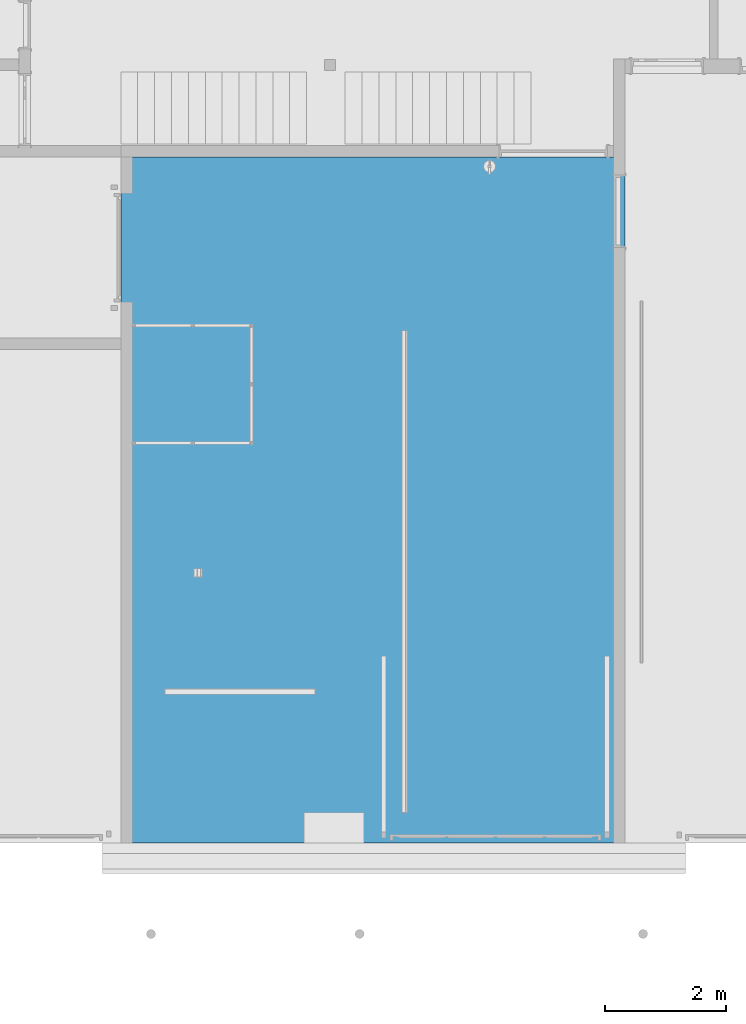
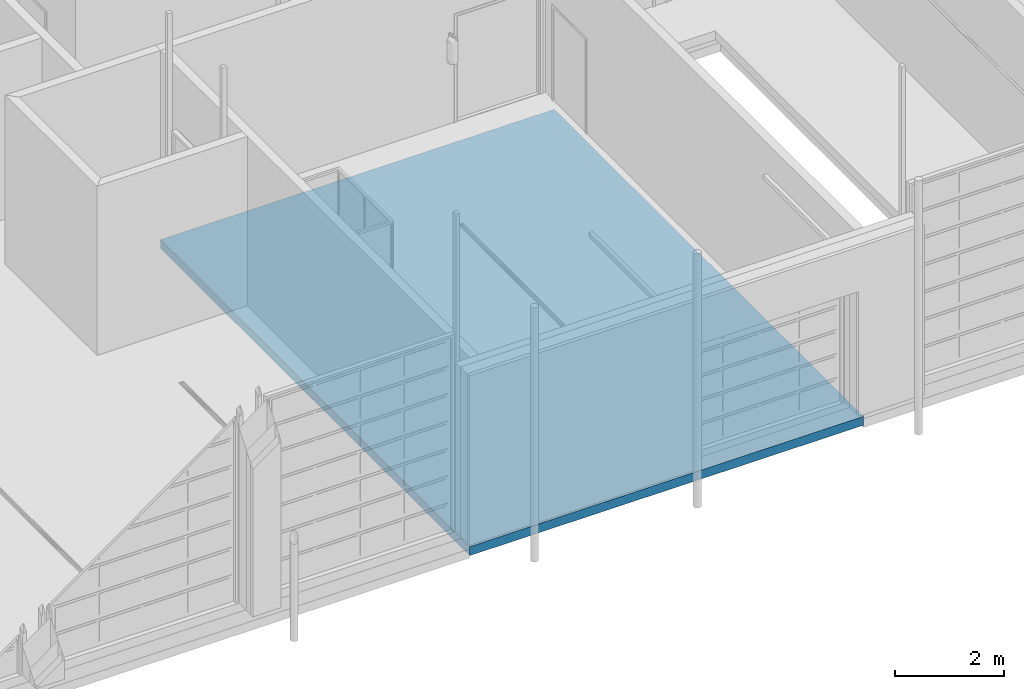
# One storey, part 51 of 112: 1 building element part, 1 element without a shape of its own.
"""IFC2X3 building model written with IfcOpenShell, lengths in millimetres."""

import ifcopenshell
import ifcopenshell.guid

model = None  # the IFC model being written
_history = None  # IfcOwnerHistory: only IFC2X3 demands one
_inside = {}  # id of a spatial element -> (the spatial element, [elements in it])
_under = {}  # id of a project, library or spatial element -> (it, [spatial elements below it])
_declared = {}  # id of a project -> (the project, [libraries it declares])
_typed = {}  # id of a type object -> (the type object, [elements of that type])
_made_of = {}  # id of a material, layer set ... -> (it, [elements and type objects made of it])


def new_model(schema):
    """Start an empty IFC model of exactly this schema.

    Asked for "IFC4X3", IfcOpenShell would pick the latest addendum, in which some entities
    have other attributes; the version numbers below select the first issue.
    IFC2X3 requires an IfcOwnerHistory on every rooted entity: one is made here for all.
    """
    global model, _history
    if schema == "IFC4X3":
        model = ifcopenshell.file(schema_version=(4, 3, 0, 0))
    else:
        model = ifcopenshell.file(schema=schema)
    _inside.clear()
    _under.clear()
    _declared.clear()
    _typed.clear()
    _made_of.clear()
    _history = None
    if model.schema == "IFC2X3":
        org = make("IfcOrganization", Name="unknown")
        user = make(
            "IfcPersonAndOrganization",
            ThePerson=make("IfcPerson", FamilyName="unknown"),
            TheOrganization=org,
        )
        app = make(
            "IfcApplication",
            ApplicationDeveloper=org,
            Version="unknown",
            ApplicationFullName="unknown",
            ApplicationIdentifier="unknown",
        )
        _history = make(
            "IfcOwnerHistory",
            OwningUser=user,
            OwningApplication=app,
            ChangeAction="ADDED",
            CreationDate=0,
        )
    return model


def make(cls, **values):
    """One entity of the class cls with the attributes given. An attribute that is None is left unset."""
    return model.create_entity(
        cls, **{name: value for name, value in values.items() if value is not None}
    )


def entity(cls, *values):
    """Any entity or typed value of the class cls, its attributes in the order of the schema. None: left unset."""
    e = model.create_entity(cls)
    for i, value in enumerate(values):
        if value is not None:
            e[i] = value
    return e


def rooted(cls, **values):
    """An entity with a GlobalId (a new one), such as an element, a storey or a relation."""
    return make(cls, GlobalId=ifcopenshell.guid.new(), OwnerHistory=_history, **values)


def si_unit(unit_type, name, prefix=None):
    """IfcSIUnit, for example si_unit("LENGTHUNIT", "METRE", prefix="MILLI")."""
    return make("IfcSIUnit", UnitType=unit_type, Prefix=prefix, Name=name)


def converted_unit(unit_type, name, factor, base, dimensions=None, offset=None):
    """IfcConversionBasedUnit, such as the inch: factor (a typed value) times the base unit."""
    return make(
        "IfcConversionBasedUnit"
        if offset is None
        else "IfcConversionBasedUnitWithOffset",
        ConversionOffset=offset,
        Dimensions=None
        if dimensions is None
        else entity("IfcDimensionalExponents", *dimensions),
        UnitType=unit_type,
        Name=name,
        ConversionFactor=make(
            "IfcMeasureWithUnit", ValueComponent=factor, UnitComponent=base
        ),
    )


def derived_unit(unit_type, elements):
    """IfcDerivedUnit: a product of units, each with its exponent."""
    return make(
        "IfcDerivedUnit",
        Elements=[
            make("IfcDerivedUnitElement", Unit=unit, Exponent=power)
            for unit, power in elements
        ],
        UnitType=unit_type,
    )


def money_unit(currency):
    """IfcMonetaryUnit."""
    return make("IfcMonetaryUnit", Currency=currency)


def assignment(units):
    """IfcUnitAssignment: the units of a project."""
    return None if units is None else make("IfcUnitAssignment", Units=units)


def point(xyz):
    """IfcCartesianPoint."""
    return None if xyz is None else make("IfcCartesianPoint", Coordinates=xyz)


def direction(xyz):
    """IfcDirection."""
    return None if xyz is None else make("IfcDirection", DirectionRatios=xyz)


def frame(location, z_axis=None, x_axis=None):
    """IfcAxis2Placement3D, a coordinate frame: its origin and axes. An axis left out is left unset."""
    return make(
        "IfcAxis2Placement3D",
        Location=point(location),
        Axis=direction(z_axis),
        RefDirection=direction(x_axis),
    )


def origin_with_axes():
    """The frame at (0, 0, 0) with the z axis (0, 0, 1) and the x axis (1, 0, 0) written out."""
    return frame((0.0, 0.0, 0.0), z_axis=(0.0, 0.0, 1.0), x_axis=(1.0, 0.0, 0.0))


def place(relative_to, where):
    """IfcLocalPlacement: puts the frame where relative to a parent placement (None: the world)."""
    return make(
        "IfcLocalPlacement", PlacementRelTo=relative_to, RelativePlacement=where
    )


def context(
    kind, dimensions, precision=None, world=None, true_north=None, identifier=None
):
    """IfcGeometricRepresentationContext, for example the 3D "Model" context."""
    return make(
        "IfcGeometricRepresentationContext",
        ContextIdentifier=identifier,
        ContextType=kind,
        CoordinateSpaceDimension=dimensions,
        Precision=precision,
        WorldCoordinateSystem=world,
        TrueNorth=true_north,
    )


def subcontext(parent, identifier, kind, view, scale=None):
    """IfcGeometricRepresentationSubContext, for example "Body" below "Model"."""
    return make(
        "IfcGeometricRepresentationSubContext",
        ContextIdentifier=identifier,
        ContextType=kind,
        ParentContext=parent,
        TargetScale=scale,
        TargetView=view,
    )


def project(units=None, contexts=None):
    """IfcProject with its units and contexts."""
    return rooted(
        "IfcProject",
        Name="project",
        RepresentationContexts=contexts,
        UnitsInContext=assignment(units),
    )


def spatial(cls, under=None, at=None, **own):
    """A site, building, storey or space (cls), placed at a placement, below another one or the project."""
    s = rooted(cls, ObjectPlacement=at, **own)
    if under is not None:
        _under.setdefault(under.id(), (under, []))[1].append(s)
    return s


def polyline(points):
    """IfcPolyline through the points."""
    return make("IfcPolyline", Points=[point(p) for p in points])


def outline(outer, holes=None, kind="AREA"):
    """IfcArbitraryClosedProfileDef: a profile drawn as a closed curve; with holes, ...WithVoids."""
    if holes is None:
        return make("IfcArbitraryClosedProfileDef", ProfileType=kind, OuterCurve=outer)
    return make(
        "IfcArbitraryProfileDefWithVoids",
        ProfileType=kind,
        OuterCurve=outer,
        InnerCurves=holes,
    )


def extrude(swept, where, along, depth):
    """IfcExtrudedAreaSolid: the profile swept, set in the frame where, extruded along a direction by depth."""
    return make(
        "IfcExtrudedAreaSolid",
        SweptArea=swept,
        Position=where,
        ExtrudedDirection=direction(along),
        Depth=depth,
    )


def boolean(op, a, b):
    """IfcBooleanResult of two solids."""
    return make("IfcBooleanResult", Operator=op, FirstOperand=a, SecondOperand=b)


def faces_of(points, faces, orient=None, outer=None):
    """IfcFace entities. A face is a list of loops; a loop is a list of indices into points, from 0.

    orient and outer hold one flag for each loop. By default every Orientation is true, the
    first loop of a face is its IfcFaceOuterBound and the others are IfcFaceBound.
    """
    made = []
    for i, loops in enumerate(faces):
        bounds = []
        for j, loop in enumerate(loops):
            is_outer = j == 0 if outer is None else outer[i][j]
            bounds.append(
                make(
                    "IfcFaceOuterBound" if is_outer else "IfcFaceBound",
                    Bound=make("IfcPolyLoop", Polygon=[points[k] for k in loop]),
                    Orientation=True if orient is None else orient[i][j],
                )
            )
        made.append(make("IfcFace", Bounds=bounds))
    return made


def faceted_brep(points, faces, orient=None, outer=None, voids=None):
    """IfcFacetedBrep: a solid bounded by flat faces; with voids (closed shells), ...WithVoids."""
    shared = [point(p) for p in points]
    hull = make("IfcClosedShell", CfsFaces=faces_of(shared, faces, orient, outer))
    if voids is None:
        return make("IfcFacetedBrep", Outer=hull)
    return make(
        "IfcFacetedBrepWithVoids",
        Outer=hull,
        Voids=[
            make(cls, CfsFaces=faces_of(shared, fs, o, b)) for cls, fs, o, b in voids
        ],
    )


def shape(context_of_items, identifier, shape_type, items):
    """IfcShapeRepresentation: the items that make up one representation, for example the "Body"."""
    return make(
        "IfcShapeRepresentation",
        ContextOfItems=context_of_items,
        RepresentationIdentifier=identifier,
        RepresentationType=shape_type,
        Items=items,
    )


def material(Name=None, Category=None):
    """IfcMaterial."""
    return make("IfcMaterial", Name=Name, Category=Category)


def made_of(thing, what):
    """Note that an element or type object is made of a material, layer set ...; save() writes the relation."""
    if what is not None:
        _made_of.setdefault(what.id(), (what, []))[1].append(thing)
    return thing


def type_object(cls, material=None, **own):
    """A type object (cls), such as IfcWallType, which elements share."""
    return made_of(rooted(cls, **own), material)


def element(
    cls,
    number,
    at=None,
    inside=None,
    cuts=None,
    type_object=None,
    material=None,
    context=None,
    identifier="Body",
    shape_type=None,
    held_by="IfcProductDefinitionShape",
    body=None,
    shapes=None,
    **own,
):
    """One element of the class cls, such as IfcWall. Its Tag is "e" and its number.

    at: its placement. inside: the storey or other place that contains it. cuts: it is an
    opening in that element (IfcRelVoidsElement). A single representation is given by context,
    identifier, shape_type and body (its items); several are given by shapes. held_by: the class
    of the entity that holds the representations. save() writes the other relations.
    """
    e = rooted(cls, Tag="e%d" % number, ObjectPlacement=at, **own)
    if body is not None:
        shapes = [shape(context, identifier, shape_type, body)]
    if shapes is not None:
        e.Representation = make(held_by, Representations=shapes)
    if inside is not None:
        _inside.setdefault(inside.id(), (inside, []))[1].append(e)
    if cuts is not None:
        rooted(
            "IfcRelVoidsElement", RelatingBuildingElement=cuts, RelatedOpeningElement=e
        )
    if type_object is not None:
        _typed.setdefault(type_object.id(), (type_object, []))[1].append(e)
    return made_of(e, material)


def aggregate(whole, parts):
    """IfcRelAggregates: a whole, such as a stair, and the parts it consists of."""
    return rooted("IfcRelAggregates", RelatingObject=whole, RelatedObjects=parts)


def save(model, path):
    """Write the relations noted so far, then the file.

    IfcRelAggregates (storeys below a building ...), IfcRelContainedInSpatialStructure (elements
    in a storey), IfcRelDefinesByType, IfcRelAssociatesMaterial and IfcRelDeclares: one each for
    every whole, place, type object, material and project.
    """
    for whole, parts in _under.values():
        aggregate(whole, parts)
    for where, things in _inside.values():
        rooted(
            "IfcRelContainedInSpatialStructure",
            RelatedElements=things,
            RelatingStructure=where,
        )
    for kind, things in _typed.values():
        rooted("IfcRelDefinesByType", RelatedObjects=things, RelatingType=kind)
    for what, things in _made_of.values():
        rooted("IfcRelAssociatesMaterial", RelatedObjects=things, RelatingMaterial=what)
    for by, libraries in _declared.values():
        rooted("IfcRelDeclares", RelatingContext=by, RelatedDefinitions=libraries)
    model.write(path)


model = new_model("IFC2X3")

# Units and contexts
model_context = context("Model", 3, precision=0.01, world=origin_with_axes(), true_north=direction((0.0, 1.0)))
body_context = subcontext(model_context, "Body", "Model", "MODEL_VIEW")
ifc_project = project(units=[si_unit("LENGTHUNIT", "METRE", prefix="MILLI"), si_unit("AREAUNIT", "SQUARE_METRE"), si_unit("VOLUMEUNIT", "CUBIC_METRE"), converted_unit("PLANEANGLEUNIT", "DEGREE", entity("IfcPlaneAngleMeasure", 0.0174532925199), si_unit("PLANEANGLEUNIT", "RADIAN"), dimensions=[0, 0, 0, 0, 0, 0, 0]), si_unit("SOLIDANGLEUNIT", "STERADIAN"), money_unit("EUR"), converted_unit("TIMEUNIT", "Year", entity("IfcTimeMeasure", 31556926.0), si_unit("TIMEUNIT", "SECOND"), dimensions=[0, 0, 1, 0, 0, 0, 0]), si_unit("MASSUNIT", "GRAM", prefix="KILO"), si_unit("THERMODYNAMICTEMPERATUREUNIT", "DEGREE_CELSIUS"), si_unit("LUMINOUSINTENSITYUNIT", "LUMEN"), si_unit("ENERGYUNIT", "JOULE", prefix="MEGA"), derived_unit("THERMALCONDUCTANCEUNIT", [(si_unit("POWERUNIT", "WATT"), 1), (si_unit("LENGTHUNIT", "METRE"), -1), (si_unit("THERMODYNAMICTEMPERATUREUNIT", "KELVIN"), -1)]), derived_unit("SPECIFICHEATCAPACITYUNIT", [(si_unit("ENERGYUNIT", "JOULE"), 1), (si_unit("MASSUNIT", "GRAM", prefix="KILO"), -1), (si_unit("THERMODYNAMICTEMPERATUREUNIT", "KELVIN"), -1)]), derived_unit("MASSDENSITYUNIT", [(si_unit("MASSUNIT", "GRAM", prefix="KILO"), 1), (si_unit("VOLUMEUNIT", "CUBIC_METRE"), -1)])], contexts=[model_context])

# Site, building, storey
site_placement = place(None, origin_with_axes())
site = spatial("IfcSite", under=ifc_project, at=site_placement, Name="Politse- ja Piirivalveameti ning Päästeameti ühishoone", CompositionType="ELEMENT")
building_placement = place(site_placement, origin_with_axes())
building = spatial("IfcBuilding", under=site, at=building_placement, Name="Politse- ja Piirivalveameti ning Päästeameti ühishoone", CompositionType="ELEMENT")
storey_placement = place(building_placement, origin_with_axes())
storey = spatial("IfcBuildingStorey", under=building, at=storey_placement, Name="Esimene korrus", CompositionType="ELEMENT", Elevation=0.0)

# Slab, building element part
slab_type = type_object("IfcSlabType", Name="PP-02_Põrand pinnasel 650", PredefinedType="NOTDEFINED")
slab_placement = place(storey_placement, frame((18400.0881112, 0.0, 0.0), z_axis=(0.0, 0.0, 1.0), x_axis=(1.0, 0.0, 0.0)))
slab = element("IfcSlab", 1, at=slab_placement, inside=storey, type_object=slab_type, Name="PP-02", PredefinedType="NOTDEFINED")
ifc_material = material(Name="VKK-03_Kruus")
building_element_part_placement = place(slab_placement, origin_with_axes())
building_element_part = element("IfcBuildingElementPart", 2, at=building_element_part_placement, material=ifc_material, Name="VKK-03_Kruus", context=body_context, shape_type="CSG", body=[
    boolean("DIFFERENCE", boolean("DIFFERENCE", boolean("DIFFERENCE", extrude(outline(polyline([(0.0, 0.0), (8359.61277161, 0.0), (8359.61277161, 11370.0198611), (0.0, 11370.0198611), (0.0, 0.0)])), frame((0.0, 0.0, -650.0), z_axis=(0.0, 0.0, 1.0), x_axis=(1.0, 0.0, 0.0)), (0.0, 0.0, 1.0), 200.0), faceted_brep([(1207.58914778, 4402.69233354, 0.0), (1357.58914778, 4402.69233354, 0.0), (1357.58914778, 4552.69233354, 0.0), (1207.58914778, 4552.69233354, 0.0), (1207.58914778, 4402.69233354, -100.0), (1357.58914778, 4402.69233354, -100.0), (1357.58914778, 4552.69233354, -100.0), (1207.58914778, 4552.69233354, -100.0), (1212.58914778, 4547.69233354, -100.0), (1212.58914778, 4522.19233354, -100.0), (1212.58914778, 4520.19233354, -100.0), (1212.58914778, 4493.19233354, -100.0), (1212.58914778, 4491.19233354, -100.0), (1212.58914778, 4464.19233354, -100.0), (1212.58914778, 4462.19233354, -100.0), (1212.58914778, 4435.19233354, -100.0), (1212.58914778, 4433.19233354, -100.0), (1212.58914778, 4407.69233354, -100.0), (1238.08914778, 4407.69233354, -100.0), (1240.08914778, 4407.69233354, -100.0), (1267.08914778, 4407.69233354, -100.0), (1269.08914778, 4407.69233354, -100.0), (1296.08914778, 4407.69233354, -100.0), (1298.08914778, 4407.69233354, -100.0), (1325.08914778, 4407.69233354, -100.0), (1327.08914778, 4407.69233354, -100.0), (1352.58914778, 4407.69233354, -100.0), (1352.58914778, 4433.19233354, -100.0), (1352.58914778, 4435.19233354, -100.0), (1352.58914778, 4462.19233354, -100.0), (1352.58914778, 4464.19233354, -100.0), (1352.58914778, 4491.19233354, -100.0), (1352.58914778, 4493.19233354, -100.0), (1352.58914778, 4520.19233354, -100.0), (1352.58914778, 4522.19233354, -100.0), (1352.58914778, 4547.69233354, -100.0), (1327.08914778, 4547.69233354, -100.0), (1327.08914778, 4522.19233354, -100.0), (1327.08914778, 4520.19233354, -100.0), (1327.08914778, 4493.19233354, -100.0), (1327.08914778, 4491.19233354, -100.0), (1327.08914778, 4464.19233354, -100.0), (1327.08914778, 4462.19233354, -100.0), (1327.08914778, 4435.19233354, -100.0), (1327.08914778, 4433.19233354, -100.0), (1325.08914778, 4433.19233354, -100.0), (1325.08914778, 4435.19233354, -100.0), (1325.08914778, 4462.19233354, -100.0), (1325.08914778, 4464.19233354, -100.0), (1325.08914778, 4491.19233354, -100.0), (1325.08914778, 4493.19233354, -100.0), (1325.08914778, 4520.19233354, -100.0), (1325.08914778, 4522.19233354, -100.0), (1325.08914778, 4547.69233354, -100.0), (1298.08914778, 4547.69233354, -100.0), (1298.08914778, 4522.19233354, -100.0), (1298.08914778, 4520.19233354, -100.0), (1298.08914778, 4493.19233354, -100.0), (1298.08914778, 4491.19233354, -100.0), (1298.08914778, 4464.19233354, -100.0), (1298.08914778, 4462.19233354, -100.0), (1298.08914778, 4435.19233354, -100.0), (1298.08914778, 4433.19233354, -100.0), (1296.08914778, 4433.19233354, -100.0), (1296.08914778, 4435.19233354, -100.0), (1296.08914778, 4462.19233354, -100.0), (1296.08914778, 4464.19233354, -100.0), (1296.08914778, 4491.19233354, -100.0), (1296.08914778, 4493.19233354, -100.0), (1296.08914778, 4520.19233354, -100.0), (1296.08914778, 4522.19233354, -100.0), (1296.08914778, 4547.69233354, -100.0), (1269.08914748, 4547.69233354, -100.0), (1269.08914778, 4522.19233354, -100.0), (1269.08914778, 4520.19233354, -100.0), (1269.08914778, 4493.19233354, -100.0), (1269.08914778, 4491.19233354, -100.0), (1269.08914778, 4464.19233354, -100.0), (1269.08914778, 4462.19233354, -100.0), (1269.08914778, 4435.19233354, -100.0), (1269.08914778, 4433.19233354, -100.0), (1267.08914778, 4433.19233354, -100.0), (1267.08914778, 4435.19233354, -100.0), (1267.08914778, 4462.19233354, -100.0), (1267.08914778, 4464.19233354, -100.0), (1267.08914778, 4491.19233354, -100.0), (1267.08914778, 4493.19233354, -100.0), (1267.08914778, 4520.19233354, -100.0), (1267.08914778, 4522.19233354, -100.0), (1267.08914778, 4547.69233354, -100.0), (1240.08914748, 4547.69233354, -100.0), (1240.08914778, 4522.19233354, -100.0), (1240.08914778, 4520.19233354, -100.0), (1240.08914778, 4493.19233354, -100.0), (1240.08914778, 4491.19233354, -100.0), (1240.08914778, 4464.19233354, -100.0), (1240.08914778, 4462.19233354, -100.0), (1240.08914778, 4435.19233354, -100.0), (1240.08914778, 4433.19233354, -100.0), (1238.08914778, 4433.19233354, -100.0), (1238.08914778, 4435.19233354, -100.0), (1238.08914778, 4462.19233354, -100.0), (1238.08914778, 4464.19233354, -100.0), (1238.08914778, 4491.19233354, -100.0), (1238.08914778, 4493.19233354, -100.0), (1238.08914778, 4520.19233354, -100.0), (1238.08914778, 4522.19233354, -100.0), (1238.08914778, 4547.69233354, -100.0), (1212.58914778, 4547.69233354, -56.35), (1212.58914778, 4522.19233354, -56.35), (1212.58914778, 4520.19233354, -56.35), (1212.58914778, 4493.19233354, -56.35), (1212.58914778, 4491.19233354, -56.35), (1212.58914778, 4464.19233354, -56.35), (1212.58914778, 4462.19233354, -56.35), (1212.58914778, 4435.19233354, -56.35), (1212.58914778, 4433.19233354, -56.35), (1212.58914778, 4407.69233354, -56.35), (1238.08914778, 4407.69233354, -56.35), (1240.08914778, 4407.69233354, -56.35), (1267.08914778, 4407.69233354, -56.35), (1269.08914778, 4407.69233354, -56.35), (1296.08914778, 4407.69233354, -56.35), (1298.08914778, 4407.69233354, -56.35), (1325.08914778, 4407.69233354, -56.35), (1327.08914778, 4407.69233354, -56.35), (1352.58914778, 4407.69233354, -56.35), (1352.58914778, 4433.19233354, -56.35), (1352.58914778, 4435.19233354, -56.35), (1352.58914778, 4462.19233354, -56.35), (1352.58914778, 4464.19233354, -56.35), (1352.58914778, 4491.19233354, -56.35), (1352.58914778, 4493.19233354, -56.35), (1352.58914778, 4520.19233354, -56.35), (1352.58914778, 4522.19233354, -56.35), (1352.58914778, 4547.69233354, -56.35), (1327.08914778, 4547.69233354, -56.35), (1327.08914778, 4522.19233354, -56.35), (1327.08914778, 4520.19233354, -56.35), (1327.08914778, 4493.19233354, -56.35), (1327.08914778, 4491.19233354, -56.35), (1327.08914778, 4464.19233354, -56.35), (1327.08914778, 4462.19233354, -56.35), (1327.08914778, 4435.19233354, -56.35), (1327.08914778, 4433.19233354, -56.35), (1325.08914778, 4433.19233354, -56.35), (1325.08914778, 4435.19233354, -56.35), (1325.08914778, 4462.19233354, -56.35), (1325.08914778, 4464.19233354, -56.35), (1325.08914778, 4491.19233354, -56.35), (1325.08914778, 4493.19233354, -56.35), (1325.08914778, 4520.19233354, -56.35), (1325.08914778, 4522.19233354, -56.35), (1325.08914778, 4547.69233354, -56.35), (1298.08914778, 4547.69233354, -56.35), (1298.08914778, 4522.19233354, -56.35), (1298.08914778, 4520.19233354, -56.35), (1298.08914778, 4493.19233354, -56.35), (1298.08914778, 4491.19233354, -56.35), (1298.08914778, 4464.19233354, -56.35), (1298.08914778, 4462.19233354, -56.35), (1298.08914778, 4435.19233354, -56.35), (1298.08914778, 4433.19233354, -56.35), (1296.08914778, 4433.19233354, -56.35), (1296.08914778, 4435.19233354, -56.35), (1296.08914778, 4462.19233354, -56.35), (1296.08914778, 4464.19233354, -56.35), (1296.08914778, 4491.19233354, -56.35), (1296.08914778, 4493.19233354, -56.35), (1296.08914778, 4520.19233354, -56.35), (1296.08914778, 4522.19233354, -56.35), (1296.08914778, 4547.69233354, -56.35), (1269.08914748, 4547.69233354, -56.35), (1269.08914778, 4522.19233354, -56.35), (1269.08914778, 4520.19233354, -56.35), (1269.08914778, 4493.19233354, -56.35), (1269.08914778, 4491.19233354, -56.35), (1269.08914778, 4464.19233354, -56.35), (1269.08914778, 4462.19233354, -56.35), (1269.08914778, 4435.19233354, -56.35), (1269.08914778, 4433.19233354, -56.35), (1267.08914778, 4433.19233354, -56.35), (1267.08914778, 4435.19233354, -56.35), (1267.08914778, 4462.19233354, -56.35), (1267.08914778, 4464.19233354, -56.35), (1267.08914778, 4491.19233354, -56.35), (1267.08914778, 4493.19233354, -56.35), (1267.08914778, 4520.19233354, -56.35), (1267.08914778, 4522.19233354, -56.35), (1267.08914778, 4547.69233354, -56.35), (1240.08914748, 4547.69233354, -56.35), (1240.08914778, 4522.19233354, -56.35), (1240.08914778, 4520.19233354, -56.35), (1240.08914778, 4493.19233354, -56.35), (1240.08914778, 4491.19233354, -56.35), (1240.08914778, 4464.19233354, -56.35), (1240.08914778, 4462.19233354, -56.35), (1240.08914778, 4435.19233354, -56.35), (1240.08914778, 4433.19233354, -56.35), (1238.08914778, 4433.19233354, -56.35), (1238.08914778, 4435.19233354, -56.35), (1238.08914778, 4462.19233354, -56.35), (1238.08914778, 4464.19233354, -56.35), (1238.08914778, 4491.19233354, -56.35), (1238.08914778, 4493.19233354, -56.35), (1238.08914778, 4520.19233354, -56.35), (1238.08914778, 4522.19233354, -56.35), (1238.08914778, 4547.69233354, -56.35)], [[[0, 1, 2, 3]], [[1, 0, 4, 5]], [[2, 1, 5, 6]], [[3, 2, 6, 7]], [[0, 3, 7, 4]], [[7, 8, 9, 10, 11, 12, 13, 14, 15, 16, 17, 18, 19, 20, 21, 22, 23, 24, 25, 26, 27, 28, 29, 30, 31, 32, 33, 34, 35, 6, 5, 4]], [[8, 7, 6, 35, 36, 37, 38, 39, 40, 41, 42, 43, 44, 25, 24, 45, 46, 47, 48, 49, 50, 51, 52, 53, 54, 55, 56, 57, 58, 59, 60, 61, 62, 23, 22, 63, 64, 65, 66, 67, 68, 69, 70, 71, 72, 73, 74, 75, 76, 77, 78, 79, 80, 21, 20, 81, 82, 83, 84, 85, 86, 87, 88, 89, 90, 91, 92, 93, 94, 95, 96, 97, 98, 19, 18, 99, 100, 101, 102, 103, 104, 105, 106, 107]], [[9, 8, 108, 109]], [[106, 105, 10, 9]], [[11, 10, 110, 111]], [[104, 103, 12, 11]], [[13, 12, 112, 113]], [[102, 101, 14, 13]], [[15, 14, 114, 115]], [[100, 99, 16, 15]], [[17, 16, 116, 117]], [[18, 17, 117, 118]], [[20, 19, 119, 120]], [[22, 21, 121, 122]], [[24, 23, 123, 124]], [[26, 25, 125, 126]], [[27, 26, 126, 127]], [[27, 44, 43, 28]], [[29, 28, 128, 129]], [[29, 42, 41, 30]], [[31, 30, 130, 131]], [[40, 39, 32, 31]], [[33, 32, 132, 133]], [[33, 38, 37, 34]], [[35, 34, 134, 135]], [[135, 136, 36, 35]], [[37, 36, 136, 137]], [[39, 38, 138, 139]], [[41, 40, 140, 141]], [[43, 42, 142, 143]], [[144, 125, 25, 44]], [[45, 24, 124, 145]], [[62, 61, 46, 45]], [[47, 46, 146, 147]], [[47, 60, 59, 48]], [[49, 48, 148, 149]], [[58, 57, 50, 49]], [[51, 50, 150, 151]], [[51, 56, 55, 52]], [[53, 52, 152, 153]], [[153, 154, 54, 53]], [[55, 54, 154, 155]], [[57, 56, 156, 157]], [[59, 58, 158, 159]], [[61, 60, 160, 161]], [[23, 62, 162, 123]], [[63, 22, 122, 163]], [[80, 79, 64, 63]], [[65, 64, 164, 165]], [[65, 78, 77, 66]], [[67, 66, 166, 167]], [[67, 76, 75, 68]], [[69, 68, 168, 169]], [[74, 73, 70, 69]], [[71, 70, 170, 171]], [[171, 172, 72, 71]], [[73, 72, 172, 173]], [[75, 74, 174, 175]], [[77, 76, 176, 177]], [[79, 78, 178, 179]], [[21, 80, 180, 121]], [[120, 181, 81, 20]], [[82, 81, 98, 97]], [[83, 82, 182, 183]], [[83, 96, 95, 84]], [[85, 84, 184, 185]], [[85, 94, 93, 86]], [[87, 86, 186, 187]], [[88, 87, 92, 91]], [[89, 88, 188, 189]], [[189, 190, 90, 89]], [[91, 90, 190, 191]], [[93, 92, 192, 193]], [[95, 94, 194, 195]], [[97, 96, 196, 197]], [[19, 98, 198, 119]], [[99, 18, 118, 199]], [[101, 100, 200, 201]], [[103, 102, 202, 203]], [[105, 104, 204, 205]], [[107, 106, 206, 207]], [[207, 108, 8, 107]], [[206, 109, 108, 207]], [[106, 9, 109, 206]], [[205, 110, 10, 105]], [[111, 110, 205, 204]], [[104, 11, 111, 204]], [[203, 112, 12, 103]], [[113, 112, 203, 202]], [[102, 13, 113, 202]], [[201, 114, 14, 101]], [[115, 114, 201, 200]], [[100, 15, 115, 200]], [[199, 116, 16, 99]], [[118, 117, 116, 199]], [[119, 198, 181, 120]], [[163, 122, 121, 180]], [[145, 124, 123, 162]], [[127, 126, 125, 144]], [[127, 144, 44, 27]], [[28, 43, 143, 128]], [[129, 128, 143, 142]], [[129, 142, 42, 29]], [[30, 41, 141, 130]], [[130, 141, 140, 131]], [[131, 140, 40, 31]], [[32, 39, 139, 132]], [[132, 139, 138, 133]], [[133, 138, 38, 33]], [[34, 37, 137, 134]], [[135, 134, 137, 136]], [[145, 162, 62, 45]], [[46, 61, 161, 146]], [[147, 146, 161, 160]], [[147, 160, 60, 47]], [[48, 59, 159, 148]], [[148, 159, 158, 149]], [[149, 158, 58, 49]], [[50, 57, 157, 150]], [[157, 156, 151, 150]], [[151, 156, 56, 51]], [[52, 55, 155, 152]], [[152, 155, 154, 153]], [[163, 180, 80, 63]], [[64, 79, 179, 164]], [[179, 178, 165, 164]], [[165, 178, 78, 65]], [[66, 77, 177, 166]], [[177, 176, 167, 166]], [[167, 176, 76, 67]], [[68, 75, 175, 168]], [[168, 175, 174, 169]], [[169, 174, 74, 69]], [[70, 73, 173, 170]], [[170, 173, 172, 171]], [[181, 198, 98, 81]], [[82, 97, 197, 182]], [[197, 196, 183, 182]], [[183, 196, 96, 83]], [[84, 95, 195, 184]], [[184, 195, 194, 185]], [[185, 194, 94, 85]], [[86, 93, 193, 186]], [[187, 186, 193, 192]], [[187, 192, 92, 87]], [[88, 91, 191, 188]], [[188, 191, 190, 189]]])), faceted_brep([(726.641850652, 2458.00929481, 0.0), (3226.64185065, 2458.00929481, 0.0), (3226.64185065, 2558.00930971, 0.0), (726.641850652, 2558.00930971, 0.0), (726.641850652, 2458.00929481, -100.0), (3226.64185065, 2458.00929481, -100.0), (3226.64185065, 2558.00930971, -100.0), (726.641850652, 2558.00930971, -100.0), (731.641865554, 2553.00929481, -100.0), (731.641865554, 2463.00930971, -100.0), (1975.64185065, 2463.00929481, -100.0), (1977.64185065, 2463.00929481, -100.0), (3221.64185065, 2463.00929481, -100.0), (3221.64185065, 2491.17596148, -100.0), (3221.64185065, 2493.17597444, -100.0), (3221.64185065, 2522.84262815, -100.0), (3221.64185065, 2524.84262815, -100.0), (3221.64185065, 2553.00929481, -100.0), (1977.64185065, 2553.00929481, -100.0), (1975.64185065, 2553.00929481, -100.0), (731.641850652, 2524.84262815, -100.0), (1975.64185065, 2524.84262815, -100.0), (1977.64185065, 2524.84262815, -100.0), (1977.64185065, 2522.84262815, -100.0), (1975.64185065, 2522.84262815, -100.0), (731.641850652, 2522.84262815, -100.0), (731.641850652, 2493.17596148, -100.0), (1975.64185065, 2493.17596148, -100.0), (1977.64185065, 2493.17596148, -100.0), (1977.64185065, 2491.17596148, -100.0), (1975.64185065, 2491.17596148, -100.0), (731.641850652, 2491.17596148, -100.0), (731.641865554, 2463.00930971, -56.35), (1975.64185065, 2463.00929481, -56.35), (1977.64185065, 2463.00929481, -56.35), (3221.64185065, 2463.00929481, -56.35), (3221.64185065, 2491.17596148, -56.35), (3221.64185065, 2493.17597444, -56.35), (3221.64185065, 2522.84262815, -56.35), (3221.64185065, 2524.84262815, -56.35), (3221.64185065, 2553.00929481, -56.35), (1977.64185065, 2553.00929481, -56.35), (1975.64185065, 2553.00929481, -56.35), (731.641865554, 2553.00929481, -56.35), (731.641850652, 2524.84262815, -56.35), (1975.64185065, 2524.84262815, -56.35), (1977.64185065, 2524.84262815, -56.35), (1977.64185065, 2522.84262815, -56.35), (1975.64185065, 2522.84262815, -56.35), (731.641850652, 2522.84262815, -56.35), (731.641850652, 2493.17596148, -56.35), (1975.64185065, 2493.17596148, -56.35), (1977.64185065, 2493.17596148, -56.35), (1977.64185065, 2491.17596148, -56.35), (1975.64185065, 2491.17596148, -56.35), (731.641850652, 2491.17596148, -56.35)], [[[0, 1, 2, 3]], [[1, 0, 4, 5]], [[2, 1, 5, 6]], [[3, 2, 6, 7]], [[0, 3, 7, 4]], [[8, 7, 6, 5, 4, 9, 10, 11, 12, 13, 14, 15, 16, 17, 18, 19]], [[7, 8, 20, 21, 22, 16, 15, 23, 24, 25, 26, 27, 28, 14, 13, 29, 30, 31, 9, 4]], [[9, 32, 33, 10]], [[11, 10, 30, 29]], [[11, 34, 35, 12]], [[12, 35, 36, 13]], [[14, 37, 38, 15]], [[16, 39, 40, 17]], [[17, 40, 41, 18]], [[22, 21, 19, 18]], [[19, 42, 43, 8]], [[44, 20, 8, 43]], [[20, 44, 45, 21]], [[39, 16, 22, 46]], [[15, 38, 47, 23]], [[27, 24, 23, 28]], [[24, 48, 49, 25]], [[50, 26, 25, 49]], [[26, 50, 51, 27]], [[37, 14, 28, 52]], [[53, 29, 13, 36]], [[30, 54, 55, 31]], [[32, 9, 31, 55]], [[33, 32, 55, 54]], [[10, 33, 54, 30]], [[34, 11, 29, 53]], [[35, 34, 53, 36]], [[38, 37, 52, 47]], [[39, 46, 41, 40]], [[46, 22, 18, 41]], [[21, 45, 42, 19]], [[45, 44, 43, 42]], [[52, 28, 23, 47]], [[27, 51, 48, 24]], [[51, 50, 49, 48]]])), faceted_brep([(4658.86340806, 497.35908012, 0.0), (4758.86340806, 497.35908012, 0.0), (4758.86340806, 8497.35908012, 0.0), (4658.86340806, 8497.35908012, 0.0), (4658.86340806, 497.35908012, -100.0), (4758.86340806, 497.35908012, -100.0), (4758.86340806, 8497.35908012, -100.0), (4658.86340806, 8497.35908012, -100.0), (4663.86340806, 8492.35908012, -100.0), (4663.86340806, 4498.35908012, -100.0), (4663.86340806, 4496.35908012, -100.0), (4663.86340806, 502.35908012, -100.0), (4692.03007473, 502.35908012, -100.0), (4694.03007473, 502.35908012, -100.0), (4723.6967414, 502.35908012, -100.0), (4725.6967414, 502.35908012, -100.0), (4753.86340806, 502.35908012, -100.0), (4753.86340806, 4496.35908012, -100.0), (4753.86340806, 4498.35908012, -100.0), (4753.86340806, 8492.35908012, -100.0), (4725.69671785, 8492.35908012, -100.0), (4725.6967414, 4498.35908012, -100.0), (4725.6967414, 4496.35908012, -100.0), (4723.6967414, 4496.35908012, -100.0), (4723.6967414, 4498.35908012, -100.0), (4723.6967414, 8492.35908012, -100.0), (4694.03005119, 8492.35908012, -100.0), (4694.03007473, 4498.35908012, -100.0), (4694.03007473, 4496.35908012, -100.0), (4692.03007473, 4496.35908012, -100.0), (4692.03007473, 4498.35908012, -100.0), (4692.03007473, 8492.35908012, -100.0), (4663.86340806, 8492.35908012, -56.35), (4663.86340806, 4498.35908012, -56.35), (4663.86340806, 4496.35908012, -56.35), (4663.86340806, 502.35908012, -56.35), (4692.03007473, 502.35908012, -56.35), (4694.03007473, 502.35908012, -56.35), (4723.6967414, 502.35908012, -56.35), (4725.6967414, 502.35908012, -56.35), (4753.86340806, 502.35908012, -56.35), (4753.86340806, 4496.35908012, -56.35), (4753.86340806, 4498.35908012, -56.35), (4753.86340806, 8492.35908012, -56.35), (4725.69671785, 8492.35908012, -56.35), (4725.6967414, 4498.35908012, -56.35), (4725.6967414, 4496.35908012, -56.35), (4723.6967414, 4496.35908012, -56.35), (4723.6967414, 4498.35908012, -56.35), (4723.6967414, 8492.35908012, -56.35), (4694.03005119, 8492.35908012, -56.35), (4694.03007473, 4498.35908012, -56.35), (4694.03007473, 4496.35908012, -56.35), (4692.03007473, 4496.35908012, -56.35), (4692.03007473, 4498.35908012, -56.35), (4692.03007473, 8492.35908012, -56.35)], [[[0, 1, 2, 3]], [[1, 0, 4, 5]], [[2, 1, 5, 6]], [[3, 2, 6, 7]], [[0, 3, 7, 4]], [[7, 8, 9, 10, 11, 12, 13, 14, 15, 16, 17, 18, 19, 6, 5, 4]], [[8, 7, 6, 19, 20, 21, 22, 15, 14, 23, 24, 25, 26, 27, 28, 13, 12, 29, 30, 31]], [[32, 33, 9, 8]], [[9, 30, 29, 10]], [[34, 35, 11, 10]], [[35, 36, 12, 11]], [[37, 38, 14, 13]], [[39, 40, 16, 15]], [[40, 41, 17, 16]], [[21, 18, 17, 22]], [[42, 43, 19, 18]], [[20, 19, 43, 44]], [[44, 45, 21, 20]], [[15, 22, 46, 39]], [[38, 47, 23, 14]], [[24, 23, 28, 27]], [[48, 49, 25, 24]], [[26, 25, 49, 50]], [[50, 51, 27, 26]], [[13, 28, 52, 37]], [[29, 12, 36, 53]], [[54, 55, 31, 30]], [[8, 31, 55, 32]], [[33, 32, 55, 54]], [[33, 54, 30, 9]], [[10, 29, 53, 34]], [[34, 53, 36, 35]], [[37, 52, 47, 38]], [[46, 41, 40, 39]], [[22, 17, 41, 46]], [[45, 42, 18, 21]], [[45, 44, 43, 42]], [[28, 23, 47, 52]], [[51, 48, 24, 27]], [[50, 49, 48, 51]]])),
])
aggregate(slab, [building_element_part])

save(model, "model.ifc")
